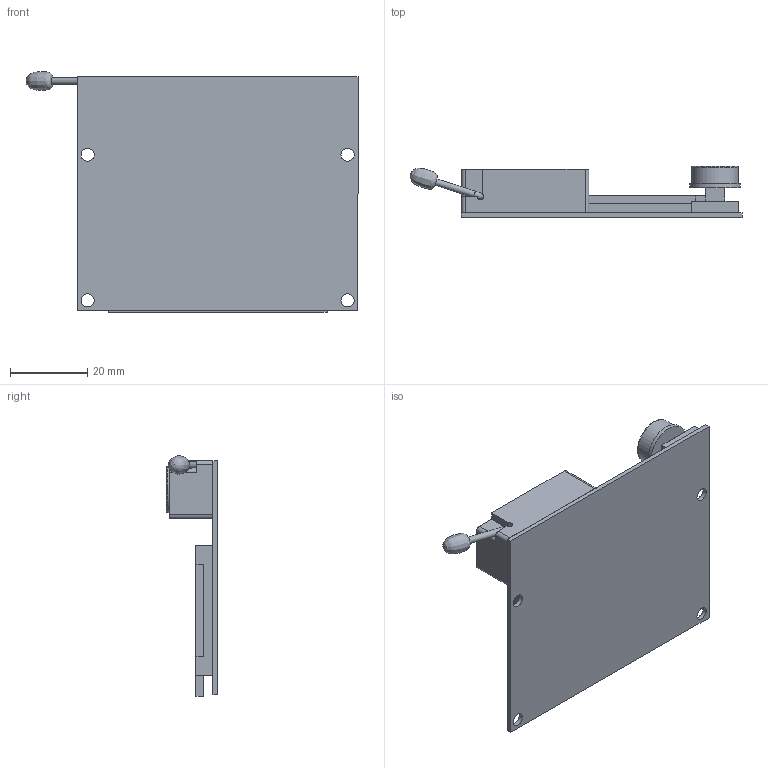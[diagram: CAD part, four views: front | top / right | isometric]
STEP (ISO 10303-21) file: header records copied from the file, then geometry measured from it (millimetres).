
FILE_DESCRIPTION(('FreeCAD Model'),'2;1');
FILE_NAME('Open CASCADE Shape Model','2023-05-06T18:44:57',('Author'),( ''),'Open CASCADE STEP processor 7.5','FreeCAD','Unknown');
FILE_SCHEMA(('AUTOMOTIVE_DESIGN { 1 0 10303 214 1 1 1 1 }'));
Length unit declared in the file: millimetre
Products named in the file (3): h1; electronic components  multi tester; tester
Assembly tree (2 placements, depth 2):
  electronic components  multi tester
    tester
    h1
Bounding box: 85.71 x 13.2 x 62.17 mm (x, y, z)
Volume: 20799.3 mm3; surface area: 21910 mm2
Topology: 8 solids, 8 shells, 155 faces, 402 edges, 268 vertices
Faces by surface type: plane 137, cylinder 15, torus 2, bspline 1
Full cylindrical faces by diameter (mm): 1.7 x4, 3.4 x4, 12 x1, 13 x1
Entity records: 6390 total; most frequent: CARTESIAN_POINT 853, ORIENTED_EDGE 766, DIRECTION 733, EDGE_CURVE 383, VECTOR 351, LINE 351, VERTEX_POINT 262, AXIS2_PLACEMENT_3D 191
